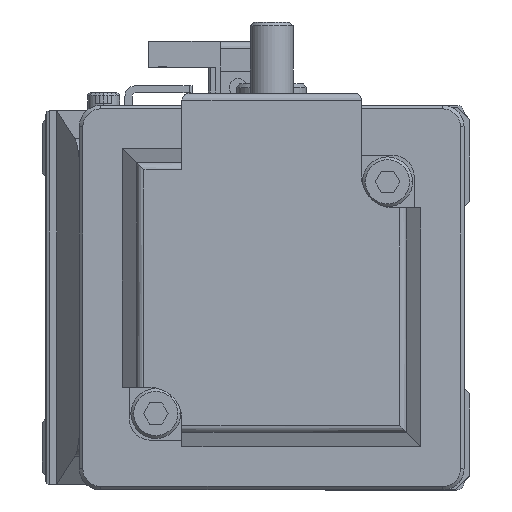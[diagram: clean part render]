
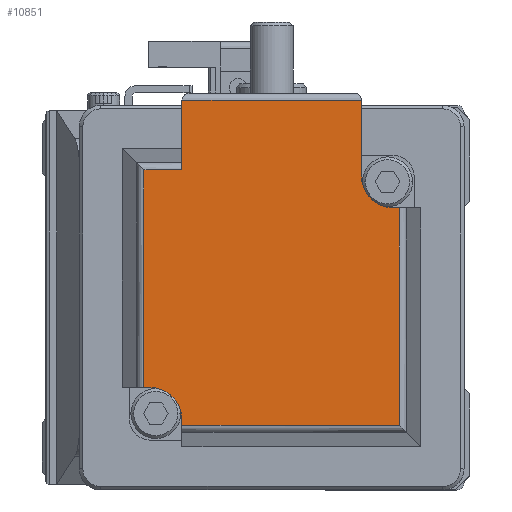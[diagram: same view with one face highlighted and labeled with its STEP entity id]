
A CAD part, left-side view. The second image highlights one B-rep face of the part: STEP entity #10851.
In plain terms, the highlighted planar face has unit normal (-1, 0, 0) as drawn and (0, 1, 0) by its records, which use the part's own axes.
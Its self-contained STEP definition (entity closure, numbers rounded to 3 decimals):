
#289 = ORIENTED_EDGE ( 'NONE', *, *, #19552, .T. ) ;
#393 = EDGE_CURVE ( 'NONE', #5848, #20667, #6284, .T. ) ;
#434 = ORIENTED_EDGE ( 'NONE', *, *, #31533, .F. ) ;
#463 = VERTEX_POINT ( 'NONE', #23789 ) ;
#831 = CARTESIAN_POINT ( 'NONE',  ( 27.7, 100.6, -12.6 ) ) ;
#862 = DIRECTION ( 'NONE',  ( -1., 0., 0. ) ) ;
#868 = EDGE_CURVE ( 'NONE', #11303, #11018, #30595, .T. ) ;
#1109 = DIRECTION ( 'NONE',  ( 0., 0., 1. ) ) ;
#1859 = CARTESIAN_POINT ( 'NONE',  ( 17.1, 100.6, 12.6 ) ) ;
#2539 = CARTESIAN_POINT ( 'NONE',  ( -12.6, 100.6, -17.1 ) ) ;
#2853 = CARTESIAN_POINT ( 'NONE',  ( -17.1, 100.6, -12.6 ) ) ;
#3477 = VECTOR ( 'NONE', #6461, 1000. ) ;
#3898 = DIRECTION ( 'NONE',  ( 0., 0., 1. ) ) ;
#4551 = VERTEX_POINT ( 'NONE', #34294 ) ;
#4864 = VECTOR ( 'NONE', #26397, 1000. ) ;
#5290 = LINE ( 'NONE', #28336, #17473 ) ;
#5292 = CARTESIAN_POINT ( 'NONE',  ( 17.929, 100.6, 12.6 ) ) ;
#5848 = VERTEX_POINT ( 'NONE', #14875 ) ;
#6284 = LINE ( 'NONE', #17101, #23478 ) ;
#6286 = VERTEX_POINT ( 'NONE', #32243 ) ;
#6461 = DIRECTION ( 'NONE',  ( 0., 0., -1. ) ) ;
#6830 = AXIS2_PLACEMENT_3D ( 'NONE', #18332, #7882, #15642 ) ;
#6860 = ORIENTED_EDGE ( 'NONE', *, *, #20103, .T. ) ;
#7269 = CIRCLE ( 'NONE', #6830, 4.5 ) ;
#7325 = DIRECTION ( 'NONE',  ( 0., -1., 0. ) ) ;
#7525 = EDGE_CURVE ( 'NONE', #17856, #5848, #16074, .T. ) ;
#7882 = DIRECTION ( 'NONE',  ( 0., 1., 0. ) ) ;
#8874 = DIRECTION ( 'NONE',  ( 1., 0., 0. ) ) ;
#9092 = CARTESIAN_POINT ( 'NONE',  ( -12.6, 100.6, -17.929 ) ) ;
#9155 = VERTEX_POINT ( 'NONE', #29526 ) ;
#9212 = CIRCLE ( 'NONE', #29016, 4.5 ) ;
#9579 = DIRECTION ( 'NONE',  ( 1., 0., 0. ) ) ;
#10851 = ADVANCED_FACE ( 'NONE', ( #18025 ), #20341, .F. ) ;
#11018 = VERTEX_POINT ( 'NONE', #24390 ) ;
#11303 = VERTEX_POINT ( 'NONE', #9092 ) ;
#12732 = DIRECTION ( 'NONE',  ( 0., 0., -1. ) ) ;
#12793 = ORIENTED_EDGE ( 'NONE', *, *, #22706, .F. ) ;
#12851 = LINE ( 'NONE', #27733, #19959 ) ;
#12935 = EDGE_CURVE ( 'NONE', #17968, #9155, #7269, .T. ) ;
#13023 = VECTOR ( 'NONE', #8874, 1000. ) ;
#13374 = VECTOR ( 'NONE', #1109, 1000. ) ;
#14431 = ORIENTED_EDGE ( 'NONE', *, *, #23473, .F. ) ;
#14439 = LINE ( 'NONE', #17502, #17820 ) ;
#14459 = CARTESIAN_POINT ( 'NONE',  ( 17.929, 100.6, 25. ) ) ;
#14490 = VERTEX_POINT ( 'NONE', #831 ) ;
#14775 = CARTESIAN_POINT ( 'NONE',  ( -17.1, 100.6, -17.1 ) ) ;
#14875 = CARTESIAN_POINT ( 'NONE',  ( -17.929, 100.6, -12.6 ) ) ;
#15133 = EDGE_CURVE ( 'NONE', #9155, #463, #19247, .T. ) ;
#15642 = DIRECTION ( 'NONE',  ( 0., 0., -1. ) ) ;
#16074 = LINE ( 'NONE', #17615, #3477 ) ;
#16198 = EDGE_LOOP ( 'NONE', ( #434, #14431, #31617, #12793, #26576, #6860, #289, #32081, #24067, #29300, #23281, #33761 ) ) ;
#17101 = CARTESIAN_POINT ( 'NONE',  ( 17.929, 100.6, -12.6 ) ) ;
#17106 = DIRECTION ( 'NONE',  ( 0., -1., 0. ) ) ;
#17206 = VERTEX_POINT ( 'NONE', #2539 ) ;
#17473 = VECTOR ( 'NONE', #9579, 1000. ) ;
#17502 = CARTESIAN_POINT ( 'NONE',  ( 27.7, 100.6, 25. ) ) ;
#17586 = EDGE_CURVE ( 'NONE', #6286, #14490, #5290, .T. ) ;
#17615 = CARTESIAN_POINT ( 'NONE',  ( -17.929, 100.6, 25. ) ) ;
#17820 = VECTOR ( 'NONE', #19709, 1000. ) ;
#17856 = VERTEX_POINT ( 'NONE', #20036 ) ;
#17968 = VERTEX_POINT ( 'NONE', #1859 ) ;
#18007 = CARTESIAN_POINT ( 'NONE',  ( 17.929, 100.6, 25. ) ) ;
#18025 = FACE_OUTER_BOUND ( 'NONE', #16198, .T. ) ;
#18332 = CARTESIAN_POINT ( 'NONE',  ( 17.1, 100.6, 17.1 ) ) ;
#18333 = EDGE_CURVE ( 'NONE', #463, #17856, #12851, .T. ) ;
#19083 = VECTOR ( 'NONE', #3898, 1000. ) ;
#19247 = LINE ( 'NONE', #19676, #24696 ) ;
#19493 = LINE ( 'NONE', #14459, #19083 ) ;
#19552 = EDGE_CURVE ( 'NONE', #17206, #20667, #9212, .T. ) ;
#19676 = CARTESIAN_POINT ( 'NONE',  ( 12.6, 100.6, 25. ) ) ;
#19709 = DIRECTION ( 'NONE',  ( 0., 0., 1. ) ) ;
#19959 = VECTOR ( 'NONE', #862, 1000. ) ;
#20036 = CARTESIAN_POINT ( 'NONE',  ( -17.929, 100.6, 17.929 ) ) ;
#20103 = EDGE_CURVE ( 'NONE', #11303, #17206, #23836, .T. ) ;
#20341 = PLANE ( 'NONE',  #29665 ) ;
#20370 = LINE ( 'NONE', #5292, #4864 ) ;
#20667 = VERTEX_POINT ( 'NONE', #2853 ) ;
#22706 = EDGE_CURVE ( 'NONE', #11018, #6286, #19493, .T. ) ;
#22732 = DIRECTION ( 'NONE',  ( 0., 0., -1. ) ) ;
#23281 = ORIENTED_EDGE ( 'NONE', *, *, #15133, .F. ) ;
#23473 = EDGE_CURVE ( 'NONE', #14490, #4551, #14439, .T. ) ;
#23478 = VECTOR ( 'NONE', #29708, 1000. ) ;
#23789 = CARTESIAN_POINT ( 'NONE',  ( 12.6, 100.6, 17.929 ) ) ;
#23836 = LINE ( 'NONE', #27623, #13374 ) ;
#24067 = ORIENTED_EDGE ( 'NONE', *, *, #7525, .F. ) ;
#24390 = CARTESIAN_POINT ( 'NONE',  ( 17.929, 100.6, -17.929 ) ) ;
#24696 = VECTOR ( 'NONE', #33521, 1000. ) ;
#26397 = DIRECTION ( 'NONE',  ( -1., 0., 0. ) ) ;
#26576 = ORIENTED_EDGE ( 'NONE', *, *, #868, .F. ) ;
#27530 = CARTESIAN_POINT ( 'NONE',  ( 17.929, 100.6, -17.929 ) ) ;
#27623 = CARTESIAN_POINT ( 'NONE',  ( -12.6, 100.6, -21. ) ) ;
#27733 = CARTESIAN_POINT ( 'NONE',  ( 17.929, 100.6, 17.929 ) ) ;
#28336 = CARTESIAN_POINT ( 'NONE',  ( 17.929, 100.6, -12.6 ) ) ;
#29016 = AXIS2_PLACEMENT_3D ( 'NONE', #14775, #17106, #22732 ) ;
#29300 = ORIENTED_EDGE ( 'NONE', *, *, #18333, .F. ) ;
#29526 = CARTESIAN_POINT ( 'NONE',  ( 12.6, 100.6, 17.1 ) ) ;
#29665 = AXIS2_PLACEMENT_3D ( 'NONE', #18007, #7325, #12732 ) ;
#29708 = DIRECTION ( 'NONE',  ( 1., 0., 0. ) ) ;
#30595 = LINE ( 'NONE', #27530, #13023 ) ;
#31533 = EDGE_CURVE ( 'NONE', #4551, #17968, #20370, .T. ) ;
#31617 = ORIENTED_EDGE ( 'NONE', *, *, #17586, .F. ) ;
#32081 = ORIENTED_EDGE ( 'NONE', *, *, #393, .F. ) ;
#32243 = CARTESIAN_POINT ( 'NONE',  ( 17.929, 100.6, -12.6 ) ) ;
#33521 = DIRECTION ( 'NONE',  ( 0., 0., 1. ) ) ;
#33761 = ORIENTED_EDGE ( 'NONE', *, *, #12935, .F. ) ;
#34294 = CARTESIAN_POINT ( 'NONE',  ( 27.7, 100.6, 12.6 ) ) ;
